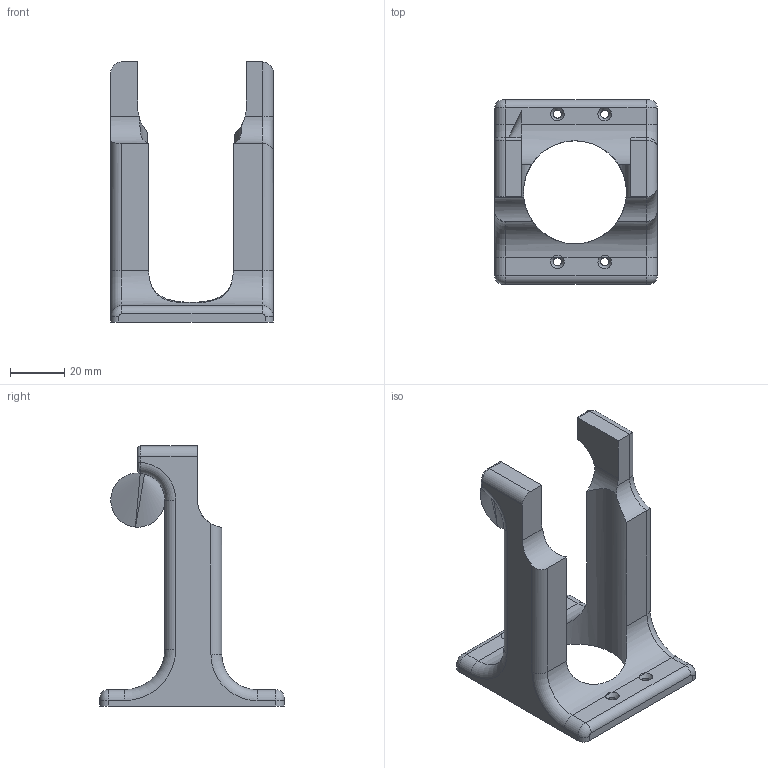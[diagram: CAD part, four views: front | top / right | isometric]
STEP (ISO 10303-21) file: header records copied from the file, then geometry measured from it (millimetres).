
FILE_DESCRIPTION(('STEP AP203'), '1');
FILE_NAME('âåøàëêà íà ñòåíó äëÿ áàëàëàéêè', '', ('UNSPECIFIED'), ('UNSPECIFIED'), 'ASCON STEP Converter 1.3', 'ASCON Math Kernel', '');
FILE_SCHEMA(('CONFIG_CONTROL_DESIGN'));
Length unit declared in the file: millimetre
Bounding box: 60 x 68 x 96 mm (x, y, z)
Surface area: 19882.1 mm2 (no closed solid volume)
Topology: 0 solids, 1 shells, 78 faces, 208 edges, 124 vertices
Faces by surface type: cylinder 38, plane 21, torus 12, cone 4, bspline 3
Full cylindrical faces by diameter (mm): 3 x4, 38 x1
Entity records: 4151 total; most frequent: CARTESIAN_POINT 1597, DIRECTION 397, ORIENTED_EDGE 393, EDGE_CURVE 197, AXIS2_PLACEMENT_3D 156, VERTEX_POINT 124, EDGE_LOOP 92, FACE_BOUND 87
